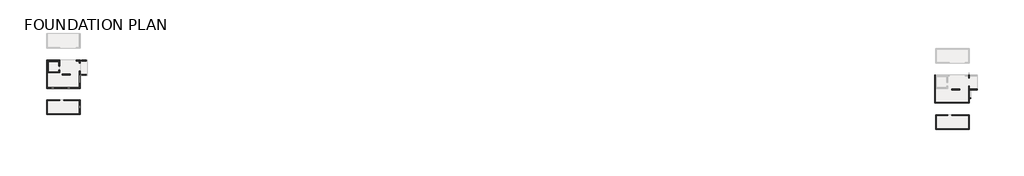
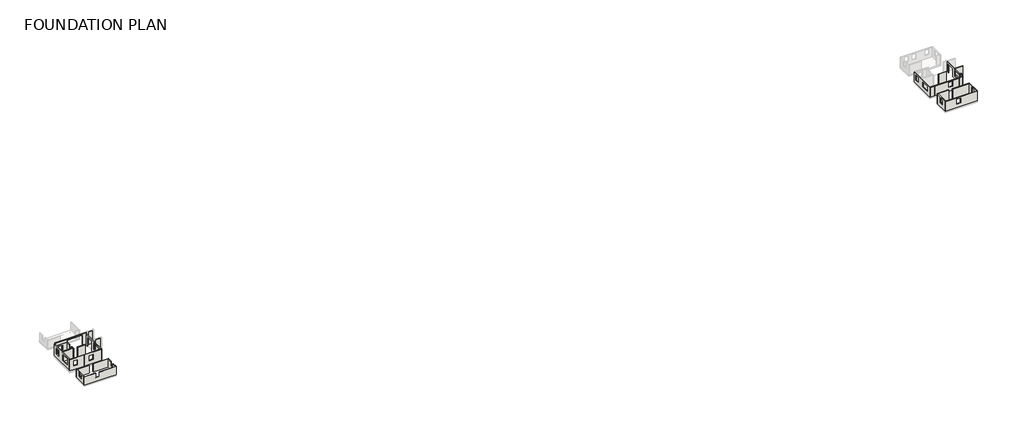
# One storey, part 1 of 2: 32 walls.
"""IFC4 building model written with IfcOpenShell, lengths in millimetres."""

from ifc_helpers import new_model, si_unit, frame, origin, origin_with_axes, place, context, project, spatial, polyline, outline, extrude, faceted_brep, element, save

model = new_model("IFC4")

# Units and contexts
model_context = context("Model", 3, world=origin())
ifc_project = project(units=[si_unit("LENGTHUNIT", "METRE", prefix="MILLI")], contexts=[model_context])

# Site, building, storey
site = spatial("IfcSite", under=ifc_project)
building = spatial("IfcBuilding", under=site)
storey = spatial("IfcBuildingStorey", under=building, Name="FOUNDATION PLAN", Elevation=0.0)

# Walls
placement = place(None, origin())
element("IfcWall", 1, ObjectType="Exterior - 6\" Concrete", at=placement, inside=storey, context=model_context, shape_type="Brep", body=[
    faceted_brep([(209635.3333898, -362.0107258, 0.0), (211387.9333898, -362.0107258, 0.0), (211387.9333898, -362.0107258, 2590.8), (209635.3333898, -362.0107258, 2590.8), (209635.3333898, -362.0107258, 2133.6), (209635.3333898, -362.0107258, 914.4), (209635.3333898, -209.6107258, 0.0), (209635.3333898, -209.6107258, 2590.8), (211387.9333898, -209.6107258, 2590.8), (211387.9333898, -209.6107258, 0.0)], [[[0, 1, 2, 3, 4, 5]], [[6, 7, 8, 9]], [[1, 0, 6, 9]], [[2, 1, 9, 8]], [[3, 2, 8, 7]], [[0, 5, 4, 3, 7, 6]]]),
])
element("IfcWall", 2, ObjectType="Exterior - 6\" Concrete", at=placement, inside=storey, context=model_context, shape_type="SweptSolid", body=[
    extrude(outline(polyline([(209482.9333898, -2597.2107258), (209482.9333898, -2343.2107258), (209635.3333898, -2343.2107258), (209635.3333898, -2597.2107258), (209482.9333898, -2597.2107258)])), origin_with_axes(), (0.0, 0.0, 1.0), 2590.8),
])
element("IfcWall", 3, ObjectType="Exterior - 6\" Concrete", at=placement, inside=storey, context=model_context, shape_type="Brep", body=[
    faceted_brep([(209635.3333898, -2343.2107258, 914.4), (209940.1333898, -2343.2107258, 914.4), (209940.1333898, -2343.2107258, 2438.4), (209635.3333898, -2343.2107258, 2438.4), (209635.3333898, -2190.8107258, 914.4), (209635.3333898, -2190.8107258, 2133.6), (209635.3333898, -2190.8107258, 2438.4), (209940.1333898, -2190.8107258, 2438.4), (209940.1333898, -2190.8107258, 914.4)], [[[0, 1, 2, 3]], [[4, 5, 6, 7, 8]], [[1, 0, 4, 8]], [[2, 1, 8, 7]], [[3, 2, 7, 6]], [[0, 3, 6, 5, 4]]]),
])
element("IfcWall", 4, ObjectType="Generic - 6\" Masonry", at=placement, inside=storey, context=model_context, shape_type="Brep", body=[
    faceted_brep([(7467.6, 9.525, 0.0), (7467.6, 9.525, 2794.0), (7467.6, 152.4, 2794.0), (7467.6, 3052.7625, 2794.0), (7467.6, 3195.6375, 2794.0), (7467.6, 6248.4, 2794.0), (7467.6, 6248.4, 0.0), (7467.6, 5800.8868796, 0.0), (7467.6, 5800.8868796, 2336.91527), (7467.6, 3971.9337441, 2336.91527), (7467.6, 3971.9337441, 0.0), (7467.6, 152.4, 0.0), (7467.6, 3128.9625, 2336.8), (7467.6, 1143.0, 2336.8), (7467.6, 1143.0, 914.4), (7467.6, 3128.9625, 914.4), (7610.475, 9.525, 2794.0), (7610.475, 9.525, 0.0), (7610.475, 3971.9337441, 0.0), (7610.475, 3971.9337441, 2336.91527), (7610.475, 5800.8868796, 2336.91527), (7610.475, 5800.8868796, 0.0), (7610.475, 6248.4, 0.0), (7610.475, 6248.4, 2794.0), (7610.475, 3195.6375, 2794.0), (7610.475, 3052.7625, 2794.0), (7610.475, 1143.0, 2336.8), (7610.475, 3128.9625, 2336.8), (7610.475, 3128.9625, 914.4), (7610.475, 1143.0, 914.4)], [[[0, 1, 2, 3, 4, 5, 6, 7, 8, 9, 10, 11], [12, 13, 14, 15]], [[16, 17, 18, 19, 20, 21, 22, 23, 24, 25], [26, 27, 28, 29]], [[1, 0, 17, 16]], [[8, 20, 19, 9]], [[20, 8, 7, 21]], [[9, 19, 18, 10]], [[12, 27, 26, 13]], [[14, 29, 28, 15]], [[27, 12, 15, 28]], [[13, 26, 29, 14]], [[6, 5, 23, 22]], [[7, 6, 22, 21]], [[0, 11, 10, 18, 17]], [[5, 4, 3, 2, 1, 16, 25, 24, 23]]]),
])
element("IfcWall", 5, ObjectType="Generic - 6\" Masonry", at=placement, inside=storey, context=model_context, shape_type="Brep", body=[
    faceted_brep([(3387.725, 152.4, 0.0), (152.4, 152.4, 0.0), (9.525, 152.4, 0.0), (9.525, 152.4, 2794.0), (152.4, 152.4, 2794.0), (3387.725, 152.4, 2794.0), (1838.325, 152.4, 914.4), (1838.325, 152.4, 2133.6), (923.925, 152.4, 2133.6), (923.925, 152.4, 914.4), (3387.725, 9.525, 0.0), (3387.725, 9.525, 2794.0), (9.525, 9.525, 2794.0), (9.525, 9.525, 0.0), (1838.325, 9.525, 914.4), (923.925, 9.525, 914.4), (923.925, 9.525, 2133.6), (1838.325, 9.525, 2133.6)], [[[0, 1, 2, 3, 4, 5], [6, 7, 8, 9]], [[10, 11, 12, 13], [14, 15, 16, 17]], [[3, 2, 13, 12]], [[2, 1, 0, 10, 13]], [[5, 4, 3, 12, 11]], [[0, 5, 11, 10]], [[7, 6, 14, 17]], [[8, 7, 17, 16]], [[9, 8, 16, 15]], [[6, 9, 15, 14]]]),
])
element("IfcWall", 6, ObjectType="Generic - 6\" Masonry", at=placement, inside=storey, context=model_context, shape_type="Brep", body=[
    faceted_brep([(7610.475, 6248.4, 0.0), (7610.475, 6248.4, 2794.0), (7610.475, 6248.4, 3098.8), (7467.6, 6248.4, 3098.8), (2978.15, 6248.4, 3098.8), (2978.15, 6248.4, 0.0), (3048.0, 6248.4, 0.0), (3048.0, 6248.4, 2844.8), (6705.6, 6248.4, 2844.8), (6705.6, 6248.4, 0.0), (7467.6, 6248.4, 0.0), (7610.475, 6391.275, 3098.8), (7610.475, 6391.275, 0.0), (6705.6, 6391.275, 0.0), (6705.6, 6391.275, 2844.8), (3048.0, 6391.275, 2844.8), (3048.0, 6391.275, 0.0), (2978.15, 6391.275, 0.0), (2978.15, 6391.275, 3098.8), (7467.6, 6391.275, 3098.8)], [[[0, 1, 2, 3, 4, 5, 6, 7, 8, 9, 10]], [[11, 12, 13, 14, 15, 16, 17, 18, 19]], [[5, 17, 16, 6]], [[12, 0, 10, 9, 13]], [[4, 3, 2, 11, 19, 18]], [[5, 4, 18, 17]], [[7, 15, 14, 8]], [[15, 7, 6, 16]], [[8, 14, 13, 9]], [[2, 1, 0, 12, 11]]]),
])
element("IfcWall", 7, ObjectType="Generic - 6\" Masonry", at=placement, inside=storey, context=model_context, shape_type="SweptSolid", body=[
    extrude(outline(polyline([(0.0, 7467.6), (2794.0, 7467.6), (2794.0, 3387.725), (0.0, 3387.725), (0.0, 7467.6)]), holes=[polyline([(914.4, 4635.5), (2133.6, 4635.5), (2133.6, 5549.9), (914.4, 5549.9), (914.4, 4635.5)])]), frame((0.0, 9.525, 0.0), z_axis=(0.0, 1.0, 0.0), x_axis=(0.0, 0.0, 1.0)), (0.0, 0.0, 1.0), 142.875),
])
element("IfcWall", 8, ObjectType="Generic - 6\" Masonry", at=placement, inside=storey, context=model_context, shape_type="SweptSolid", body=[
    extrude(outline(polyline([(5384.8, 3052.7625), (3606.8, 3052.7625), (3606.8, 3195.6375), (5384.8, 3195.6375), (5384.8, 3052.7625)])), origin_with_axes(), (0.0, 0.0, 1.0), 2794.0),
])
element("IfcWall", 9, ObjectType="Generic - 6\" Masonry", at=placement, inside=storey, context=model_context, shape_type="Brep", body=[
    faceted_brep([(3009.9, -2619.4155437, 0.0), (9.525, -2619.4155437, 0.0), (9.525, -2619.4155437, 2032.0), (152.4, -2619.4155437, 2032.0), (3009.9, -2619.4155437, 2032.0), (3009.9, -2762.2905437, 0.0), (3009.9, -2762.2905437, 2032.0), (152.4, -2762.2905437, 2032.0), (9.525, -2762.2905437, 2032.0), (9.525, -2762.2905437, 2031.0750123), (9.525, -2762.2905437, 0.0), (152.4, -2762.2905437, 0.0)], [[[0, 1, 2, 3, 4]], [[5, 6, 7, 8, 9, 10, 11]], [[1, 0, 5, 11, 10]], [[4, 3, 2, 8, 7, 6]], [[0, 4, 6, 5]], [[2, 1, 10, 9, 8]]]),
])
element("IfcWall", 10, ObjectType="Generic - 6\" Masonry", at=placement, inside=storey, context=model_context, shape_type="Brep", body=[
    faceted_brep([(9.525, -5953.1655549, 0.0), (7610.475, -5953.1655549, 0.0), (7610.475, -5953.1655549, 2031.5384896), (3606.8, -5953.1655549, 2031.5384896), (3606.8, -5953.1655549, 914.4), (2692.4, -5953.1655549, 914.4), (2692.4, -5953.1655549, 2031.5384896), (152.4, -5953.1655549, 2031.5384896), (9.525, -5953.1655549, 2031.5384896), (7610.475, -5810.2905549, 0.0), (7467.6, -5810.2905549, 0.0), (152.4, -5810.2905549, 0.0), (9.525, -5810.2905549, 0.0), (9.525, -5810.2905549, 2031.0750123), (9.525, -5810.2905549, 2031.5384896), (152.4, -5810.2905549, 2031.5384896), (2692.4, -5810.2905549, 2031.5384896), (2692.4, -5810.2905549, 914.4), (3606.8, -5810.2905549, 914.4), (3606.8, -5810.2905549, 2031.5384896), (7610.475, -5810.2905549, 2031.5384896)], [[[0, 1, 2, 3, 4, 5, 6, 7, 8]], [[9, 10, 11, 12, 13, 14, 15, 16, 17, 18, 19, 20]], [[1, 0, 12, 11, 10, 9]], [[2, 20, 19, 3]], [[14, 8, 7, 6, 16, 15]], [[2, 1, 9, 20]], [[4, 18, 17, 5]], [[5, 17, 16, 6]], [[18, 4, 3, 19]], [[0, 8, 14, 13, 12]]]),
])
element("IfcWall", 11, ObjectType="Generic - 6\" Masonry", at=placement, inside=storey, context=model_context, shape_type="Brep", body=[
    faceted_brep([(7610.475, -5810.2905549, 0.0), (7610.475, -2619.4155437, 0.0), (7610.475, -2619.4155437, 2032.0), (7610.475, -3838.6155549, 2032.0), (7610.475, -3838.6155549, 914.4), (7610.475, -4753.0155549, 914.4), (7610.475, -4753.0155549, 2032.0), (7610.475, -5810.2905549, 2032.0), (7610.475, -5810.2905549, 2031.5384896), (7467.6, -2619.4155437, 0.0), (7467.6, -2762.2905437, 0.0), (7467.6, -5810.2905549, 0.0), (7467.6, -5810.2905549, 2032.0), (7467.6, -4753.0155549, 2032.0), (7467.6, -4753.0155549, 914.4), (7467.6, -3838.6155549, 914.4), (7467.6, -3838.6155549, 2032.0), (7467.6, -2762.2905437, 2032.0), (7467.6, -2619.4155437, 2032.0)], [[[0, 1, 2, 3, 4, 5, 6, 7, 8]], [[9, 10, 11, 12, 13, 14, 15, 16, 17, 18]], [[1, 0, 11, 10, 9]], [[12, 7, 6, 13]], [[2, 18, 17, 16, 3]], [[0, 8, 7, 12, 11]], [[2, 1, 9, 18]], [[4, 15, 14, 5]], [[5, 14, 13, 6]], [[15, 4, 3, 16]]]),
])
element("IfcWall", 12, ObjectType="Generic - 6\" Masonry", at=placement, inside=storey, context=model_context, shape_type="SweptSolid", body=[
    extrude(outline(polyline([(3924.3, -2619.4155437), (7467.6, -2619.4155437), (7467.6, -2762.2905437), (3924.3, -2762.2905437), (3924.3, -2619.4155437)])), origin_with_axes(), (0.0, 0.0, 1.0), 2032.0),
])
element("IfcWall", 13, ObjectType="Generic - 6\" Masonry", at=placement, inside=storey, context=model_context, shape_type="Brep", body=[
    faceted_brep([(201891.5083898, -3390.9607258, 0.0), (201891.5083898, -3248.0857258, 0.0), (201891.5083898, 2797.1142742, 0.0), (201891.5083898, 2990.7892742, 0.0), (201891.5083898, 2990.7892742, 2438.4), (201891.5083898, -3248.0857258, 2438.4), (201891.5083898, -3390.9607258, 2438.4), (201891.5083898, 1314.3892742, 2133.6), (201891.5083898, 2228.7892742, 2133.6), (201891.5083898, 2228.7892742, 914.4), (201891.5083898, 1314.3892742, 914.4), (201891.5083898, -2374.9607258, 2133.6), (201891.5083898, -546.1607258, 2133.6), (201891.5083898, -546.1607258, 914.4), (201891.5083898, -2374.9607258, 914.4), (201748.6333898, 2990.7892742, 0.0), (201748.6333898, -3390.9607258, 0.0), (201748.6333898, -3390.9607258, 2438.4), (201748.6333898, 2990.7892742, 2438.4), (201748.6333898, 2228.7892742, 2133.6), (201748.6333898, 1314.3892742, 2133.6), (201748.6333898, 1314.3892742, 914.4), (201748.6333898, 2228.7892742, 914.4), (201748.6333898, -546.1607258, 2133.6), (201748.6333898, -2374.9607258, 2133.6), (201748.6333898, -2374.9607258, 914.4), (201748.6333898, -546.1607258, 914.4)], [[[0, 1, 2, 3, 4, 5, 6], [7, 8, 9, 10], [11, 12, 13, 14]], [[15, 16, 17, 18], [19, 20, 21, 22], [23, 24, 25, 26]], [[3, 2, 1, 0, 16, 15]], [[6, 5, 4, 18, 17]], [[7, 20, 19, 8]], [[9, 22, 21, 10]], [[20, 7, 10, 21]], [[8, 19, 22, 9]], [[0, 6, 17, 16]], [[4, 3, 15, 18]], [[11, 24, 23, 12]], [[13, 26, 25, 14]], [[24, 11, 14, 25]], [[12, 23, 26, 13]]]),
])
element("IfcWall", 14, ObjectType="Generic - 6\" Masonry", at=placement, inside=storey, context=model_context, shape_type="Brep", body=[
    faceted_brep([(209492.4583898, -3390.9607258, 0.0), (209492.4583898, -3390.9607258, 2438.4), (209492.4583898, -3248.0857258, 2438.4), (209492.4583898, 2847.9142742, 2438.4), (209492.4583898, 2990.7892742, 2438.4), (209492.4583898, 2990.7892742, 0.0), (209492.4583898, 2847.9142742, 0.0), (209492.4583898, 2304.9892742, 0.0), (209492.4583898, 2304.9892742, 2133.6), (209492.4583898, 476.1892742, 2133.6), (209492.4583898, 476.1892742, 0.0), (209492.4583898, -3248.0857258, 0.0), (209492.4583898, -362.0107258, 2133.6), (209492.4583898, -2190.8107258, 2133.6), (209492.4583898, -2190.8107258, 914.4), (209492.4583898, -362.0107258, 914.4), (209635.3333898, 2990.7892742, 2438.4), (209635.3333898, 2838.3892742, 2438.4), (209635.3333898, -2190.8107258, 2438.4), (209635.3333898, -2343.2107258, 2438.4), (209635.3333898, -3390.9607258, 2438.4), (209635.3333898, -3390.9607258, 0.0), (209635.3333898, -362.0107258, 0.0), (209635.3333898, -209.6107258, 0.0), (209635.3333898, 476.1892742, 0.0), (209635.3333898, 476.1892742, 2133.6), (209635.3333898, 2304.9892742, 2133.6), (209635.3333898, 2304.9892742, 0.0), (209635.3333898, 2838.3892742, 0.0), (209635.3333898, 2990.7892742, 0.0), (209635.3333898, -2190.8107258, 2133.6), (209635.3333898, -362.0107258, 2133.6), (209635.3333898, -362.0107258, 914.4), (209635.3333898, -2190.8107258, 914.4), (209563.8958898, 2990.7892742, 2438.4)], [[[0, 1, 2, 3, 4, 5, 6, 7, 8, 9, 10, 11], [12, 13, 14, 15]], [[16, 17, 18, 19, 20, 21, 22, 23, 24, 25, 26, 27, 28, 29], [30, 31, 32, 33]], [[21, 0, 11, 10, 24, 23, 22]], [[29, 28, 27, 7, 6, 5]], [[20, 19, 18, 17, 16, 34, 4, 3, 2, 1]], [[1, 0, 21, 20]], [[8, 26, 25, 9]], [[26, 8, 7, 27]], [[9, 25, 24, 10]], [[5, 4, 34, 16, 29]], [[13, 12, 31, 30]], [[15, 14, 33, 32]], [[15, 32, 31, 12]], [[13, 30, 33, 14]]]),
])
element("IfcWall", 15, ObjectType="Generic - 6\" Masonry", at=placement, inside=storey, context=model_context, shape_type="SweptSolid", body=[
    extrude(outline(polyline([(201891.5083898, -3248.0857258), (202928.4633246, -3248.0857258), (202928.4633246, -3390.9607258), (201891.5083898, -3390.9607258), (201891.5083898, -3248.0857258)])), origin_with_axes(), (0.0, 0.0, 1.0), 2438.4),
])
element("IfcWall", 16, ObjectType="Generic - 6\" Masonry", at=placement, inside=storey, context=model_context, shape_type="SweptSolid", body=[
    extrude(outline(polyline([(208720.9333898, -3248.0857258), (209492.4583898, -3248.0857258), (209492.4583898, -3390.9607258), (208720.9333898, -3390.9607258), (208720.9333898, -3248.0857258)])), origin_with_axes(), (0.0, 0.0, 1.0), 2438.4),
])
element("IfcWall", 17, ObjectType="Generic - 6\" Masonry", at=placement, inside=storey, context=model_context, shape_type="SweptSolid", body=[
    extrude(outline(polyline([(207400.1333898, -352.4857258), (205622.1333898, -352.4857258), (205622.1333898, -209.6107258), (207400.1333898, -209.6107258), (207400.1333898, -352.4857258)])), origin_with_axes(), (0.0, 0.0, 1.0), 2590.8),
])
element("IfcWall", 18, ObjectType="Generic - 6\" Masonry", at=placement, inside=storey, context=model_context, shape_type="Brep", body=[
    faceted_brep([(204707.7333898, -6019.9012695, 0.0), (202015.3333898, -6019.9012695, 0.0), (202015.3333898, -6019.9012695, 2438.4), (204707.7333898, -6019.9012695, 2438.4), (204707.7333898, -6162.7762695, 0.0), (204707.7333898, -6162.7762695, 2438.4), (202158.2083898, -6162.7762695, 2438.4), (202015.3333898, -6162.7762695, 2438.4), (202015.3333898, -6162.7762695, 0.0), (202158.2083898, -6162.7762695, 0.0)], [[[0, 1, 2, 3]], [[4, 5, 6, 7, 8, 9]], [[1, 0, 4, 9, 8]], [[3, 2, 7, 6, 5]], [[0, 3, 5, 4]], [[2, 1, 8, 7]]]),
])
element("IfcWall", 19, ObjectType="Generic - 6\" Masonry", at=placement, inside=storey, context=model_context, shape_type="Brep", body=[
    faceted_brep([(202015.3333898, -6162.7762695, 0.0), (202015.3333898, -9372.7012695, 0.0), (202015.3333898, -9372.7012695, 2438.4), (202015.3333898, -6162.7762695, 2438.4), (202015.3333898, -7239.1012695, 2133.6), (202015.3333898, -8153.5012695, 2133.6), (202015.3333898, -8153.5012695, 914.4), (202015.3333898, -7239.1012695, 914.4), (202158.2083898, -9372.7012695, 0.0), (202158.2083898, -9229.8262695, 0.0), (202158.2083898, -6162.7762695, 0.0), (202158.2083898, -6162.7762695, 2438.4), (202158.2083898, -9229.8262695, 2438.4), (202158.2083898, -9372.7012695, 2438.4), (202158.2083898, -8153.5012695, 2133.6), (202158.2083898, -7239.1012695, 2133.6), (202158.2083898, -7239.1012695, 914.4), (202158.2083898, -8153.5012695, 914.4)], [[[0, 1, 2, 3], [4, 5, 6, 7]], [[8, 9, 10, 11, 12, 13], [14, 15, 16, 17]], [[1, 0, 10, 9, 8]], [[3, 2, 13, 12, 11]], [[0, 3, 11, 10]], [[2, 1, 8, 13]], [[4, 15, 14, 5]], [[6, 17, 16, 7]], [[15, 4, 7, 16]], [[5, 14, 17, 6]]]),
])
element("IfcWall", 20, ObjectType="Generic - 6\" Masonry", at=placement, inside=storey, context=model_context, shape_type="Brep", body=[
    faceted_brep([(202158.2083898, -9372.7012695, 0.0), (209635.3333898, -9372.7012695, 0.0), (209635.3333898, -9372.7012695, 2438.4), (202158.2083898, -9372.7012695, 2438.4), (204707.7333898, -9372.7012695, 2133.6), (205622.1333898, -9372.7012695, 2133.6), (205622.1333898, -9372.7012695, 914.4), (204707.7333898, -9372.7012695, 914.4), (209635.3333898, -9229.8262695, 0.0), (209492.4583898, -9229.8262695, 0.0), (202158.2083898, -9229.8262695, 0.0), (202158.2083898, -9229.8262695, 2438.4), (209492.4583898, -9229.8262695, 2438.4), (209635.3333898, -9229.8262695, 2438.4), (205622.1333898, -9229.8262695, 2133.6), (204707.7333898, -9229.8262695, 2133.6), (204707.7333898, -9229.8262695, 914.4), (205622.1333898, -9229.8262695, 914.4)], [[[0, 1, 2, 3], [4, 5, 6, 7]], [[8, 9, 10, 11, 12, 13], [14, 15, 16, 17]], [[1, 0, 10, 9, 8]], [[3, 2, 13, 12, 11]], [[0, 3, 11, 10]], [[2, 1, 8, 13]], [[4, 15, 14, 5]], [[6, 17, 16, 7]], [[15, 4, 7, 16]], [[5, 14, 17, 6]]]),
])
element("IfcWall", 21, ObjectType="Generic - 6\" Masonry", at=placement, inside=storey, context=model_context, shape_type="Brep", body=[
    faceted_brep([(209635.3333898, -9229.8262695, 0.0), (209635.3333898, -6019.9012695, 0.0), (209635.3333898, -6019.9012695, 2438.4), (209635.3333898, -9229.8262695, 2438.4), (209635.3333898, -8153.5012695, 2133.6), (209635.3333898, -7239.1012695, 2133.6), (209635.3333898, -7239.1012695, 914.4), (209635.3333898, -8153.5012695, 914.4), (209492.4583898, -6019.9012695, 0.0), (209492.4583898, -6162.7762695, 0.0), (209492.4583898, -9229.8262695, 0.0), (209492.4583898, -9229.8262695, 2438.4), (209492.4583898, -6162.7762695, 2438.4), (209492.4583898, -6019.9012695, 2438.4), (209492.4583898, -7239.1012695, 2133.6), (209492.4583898, -8153.5012695, 2133.6), (209492.4583898, -8153.5012695, 914.4), (209492.4583898, -7239.1012695, 914.4)], [[[0, 1, 2, 3], [4, 5, 6, 7]], [[8, 9, 10, 11, 12, 13], [14, 15, 16, 17]], [[1, 0, 10, 9, 8]], [[3, 2, 13, 12, 11]], [[0, 3, 11, 10]], [[2, 1, 8, 13]], [[4, 15, 14, 5]], [[6, 17, 16, 7]], [[15, 4, 7, 16]], [[5, 14, 17, 6]]]),
])
element("IfcWall", 22, ObjectType="Generic - 6\" Masonry", at=placement, inside=storey, context=model_context, shape_type="SweptSolid", body=[
    extrude(outline(polyline([(205622.1333898, -6019.9012695), (209492.4583898, -6019.9012695), (209492.4583898, -6162.7762695), (205622.1333898, -6162.7762695), (205622.1333898, -6019.9012695)])), origin_with_axes(), (0.0, 0.0, 1.0), 2438.4),
])
element("IfcWall", 23, ObjectType="Generic - 6\" Masonry", at=placement, inside=storey, context=model_context, shape_type="Brep", body=[
    faceted_brep([(152.4, 152.4, 0.0), (152.4, 6248.3999888, 0.0), (152.4, 6391.2749888, 0.0), (152.4, 6391.2749888, 2794.0), (152.4, 152.4, 2794.0), (152.4, 4562.4749888, 2336.7879629), (152.4, 5476.8749888, 2336.7879629), (152.4, 5476.8749888, 914.4), (152.4, 4562.4749888, 914.4), (152.4, 1016.0000536, 2336.7380994), (152.4, 2844.8000536, 2336.7380994), (152.4, 2844.8000536, 914.4), (152.4, 1016.0000536, 914.4), (9.525, 6391.2749888, 0.0), (9.525, 152.4, 0.0), (9.525, 152.4, 2794.0), (9.525, 3052.7625, 2794.0), (9.525, 3195.6375, 2794.0), (9.525, 6391.2749888, 2794.0), (9.525, 5476.8749888, 2336.7879629), (9.525, 4562.4749888, 2336.7879629), (9.525, 4562.4749888, 914.4), (9.525, 5476.8749888, 914.4), (9.525, 2844.8000536, 2336.7380994), (9.525, 1016.0000536, 2336.7380994), (9.525, 1016.0000536, 914.4), (9.525, 2844.8000536, 914.4)], [[[0, 1, 2, 3, 4], [5, 6, 7, 8], [9, 10, 11, 12]], [[13, 14, 15, 16, 17, 18], [19, 20, 21, 22], [23, 24, 25, 26]], [[2, 1, 0, 14, 13]], [[4, 3, 18, 17, 16, 15]], [[5, 20, 19, 6]], [[7, 22, 21, 8]], [[20, 5, 8, 21]], [[6, 19, 22, 7]], [[9, 24, 23, 10]], [[11, 26, 25, 12]], [[24, 9, 12, 25]], [[10, 23, 26, 11]], [[0, 4, 15, 14]], [[3, 2, 13, 18]]]),
])
element("IfcWall", 24, ObjectType="Generic - 6\" Masonry", at=placement, inside=storey, context=model_context, shape_type="SweptSolid", body=[
    extrude(outline(polyline([(-2762.2905437, 0.0), (-5810.2905549, 0.0), (-5810.2905549, 2031.0750123), (-2762.2905437, 2031.0750123), (-2762.2905437, 0.0)]), holes=[polyline([(-3838.6155549, 2029.6460456), (-4753.0155549, 2029.6460456), (-4753.0155549, 914.4), (-3838.6155549, 914.4), (-3838.6155549, 2029.6460456)])]), frame((9.525, 0.0, 0.0), z_axis=(1.0, 0.0, 0.0), x_axis=(0.0, 1.0, 0.0)), (0.0, 0.0, 1.0), 142.875),
])
element("IfcWall", 25, ObjectType="Generic - 6\" Masonry", at=placement, inside=storey, context=model_context, shape_type="Brep", body=[
    faceted_brep([(2978.15, 6391.2749888, 0.0), (152.4, 6391.2749888, 0.0), (152.4, 6391.2749888, 2794.0), (152.4, 6391.2749888, 3098.8), (2978.15, 6391.2749888, 3098.8), (2978.15, 6391.2749888, 2794.0), (2978.15, 6391.2749888, 2438.4), (1838.325, 6391.2749888, 914.4), (1838.325, 6391.2749888, 2133.6), (923.925, 6391.2749888, 2133.6), (923.925, 6391.2749888, 914.4), (2978.15, 6248.3999888, 0.0), (2978.15, 6248.3999888, 2438.4), (2978.15, 6248.3999888, 2794.0), (2978.15, 6248.3999888, 3098.8), (152.4, 6248.3999888, 3098.8), (152.4, 6248.3999888, 0.0), (1838.325, 6248.3999888, 914.4), (923.925, 6248.3999888, 914.4), (923.925, 6248.3999888, 2133.6), (1838.325, 6248.3999888, 2133.6)], [[[0, 1, 2, 3, 4, 5, 6], [7, 8, 9, 10]], [[11, 12, 13, 14, 15, 16], [17, 18, 19, 20]], [[3, 2, 1, 16, 15]], [[1, 0, 11, 16]], [[4, 3, 15, 14]], [[0, 6, 5, 4, 14, 13, 12, 11]], [[8, 7, 17, 20]], [[9, 8, 20, 19]], [[10, 9, 19, 18]], [[7, 10, 18, 17]]]),
])
element("IfcWall", 26, ObjectType="Generic - 6\" Masonry Safe Room", at=placement, inside=storey, context=model_context, shape_type="Brep", body=[
    faceted_brep([(2835.275, 3606.8, 0.0), (2835.275, 3606.8, 2438.4), (2835.275, 3749.675, 2438.4), (2835.275, 4206.875, 2438.4), (2835.275, 4206.875, 0.0), (2835.275, 3749.675, 0.0), (2978.15, 3606.8, 2438.4), (2978.15, 3606.8, 0.0), (2978.15, 4206.875, 0.0), (2978.15, 4206.875, 2438.4)], [[[0, 1, 2, 3, 4, 5]], [[6, 7, 8, 9]], [[7, 0, 5, 4, 8]], [[1, 0, 7, 6]], [[4, 3, 9, 8]], [[1, 6, 9, 3, 2]]]),
    faceted_brep([(2835.275, 6178.5499888, 2438.4), (2835.275, 6178.5499888, 0.0), (2835.275, 6035.6749888, 0.0), (2835.275, 5121.275, 0.0), (2835.275, 5121.275, 2438.4), (2835.275, 6035.6749888, 2438.4), (2978.15, 6178.5499888, 0.0), (2978.15, 6178.5499888, 2438.4), (2978.15, 5121.275, 2438.4), (2978.15, 5121.275, 0.0)], [[[0, 1, 2, 3, 4, 5]], [[6, 7, 8, 9]], [[1, 6, 9, 3, 2]], [[1, 0, 7, 6]], [[4, 3, 9, 8]], [[7, 0, 5, 4, 8]]]),
])
element("IfcWall", 27, ObjectType="Generic - 6\" Masonry Safe Room", at=placement, inside=storey, context=model_context, shape_type="Brep", body=[
    faceted_brep([(2835.275, 3749.675, 0.0), (346.075, 3749.675, 0.0), (203.2, 3749.675, 0.0), (203.2, 3749.675, 2438.4), (346.075, 3749.675, 2438.4), (2835.275, 3749.675, 2438.4), (2835.275, 3606.8, 0.0), (2835.275, 3606.8, 2438.4), (203.2, 3606.8, 2438.4), (203.2, 3606.8, 0.0)], [[[0, 1, 2, 3, 4, 5]], [[6, 7, 8, 9]], [[2, 1, 0, 6, 9]], [[0, 5, 7, 6]], [[3, 2, 9, 8]], [[5, 4, 3, 8, 7]]]),
])
element("IfcWall", 28, ObjectType="Generic - 6\" Masonry Safe Room", at=placement, inside=storey, context=model_context, shape_type="Brep", body=[
    faceted_brep([(346.075, 3749.675, 0.0), (346.075, 6035.6749888, 0.0), (346.075, 6178.5499888, 0.0), (346.075, 6178.5499888, 2438.4), (346.075, 6035.6749888, 2438.4), (346.075, 3749.675, 2438.4), (346.075, 4552.9499888, 2135.6092442), (346.075, 5467.3499888, 2135.6092442), (346.075, 5467.3499888, 2133.6), (346.075, 5467.3499888, 914.4), (346.075, 4552.9499888, 914.4), (346.075, 4552.9499888, 2133.6), (203.2, 6178.5499888, 0.0), (203.2, 3749.675, 0.0), (203.2, 3749.675, 2438.4), (203.2, 6178.5499888, 2438.4), (203.2, 5467.3499888, 2135.6092442), (203.2, 4552.9499888, 2135.6092442), (203.2, 4552.9499888, 2133.6), (203.2, 4552.9499888, 914.4), (203.2, 5467.3499888, 914.4), (203.2, 5467.3499888, 2133.6)], [[[0, 1, 2, 3, 4, 5], [6, 7, 8, 9, 10, 11]], [[12, 13, 14, 15], [16, 17, 18, 19, 20, 21]], [[2, 1, 0, 13, 12]], [[0, 5, 14, 13]], [[3, 2, 12, 15]], [[6, 17, 16, 7]], [[9, 20, 19, 10]], [[17, 6, 11, 10, 19, 18]], [[7, 16, 21, 20, 9, 8]], [[5, 4, 3, 15, 14]]]),
])
element("IfcWall", 29, ObjectType="Generic - 6\" Masonry Safe Room", at=placement, inside=storey, context=model_context, shape_type="SweptSolid", body=[
    extrude(outline(polyline([(0.0, 346.075), (0.0, 2835.275), (2438.4, 2835.275), (2438.4, 346.075), (0.0, 346.075)]), holes=[polyline([(914.4, 923.925), (2133.6, 923.925), (2133.6, 1838.325), (914.4, 1838.325), (914.4, 923.925)])]), frame((0.0, 6035.6749888, 0.0), z_axis=(0.0, 1.0, 0.0), x_axis=(0.0, 0.0, 1.0)), (0.0, 0.0, 1.0), 142.875),
])
element("IfcWall", 30, ObjectType="Generic - 8\" Masonry Break Out", at=placement, inside=storey, context=model_context, shape_type="Brep", body=[
    faceted_brep([(202928.4633246, -3390.9607258, 0.0), (208720.9333898, -3390.9607258, 0.0), (208720.9333898, -3390.9607258, 2438.4), (202928.4633246, -3390.9607258, 2438.4), (206282.5333898, -3390.9607258, 2133.6), (207196.9333898, -3390.9607258, 2133.6), (207196.9333898, -3390.9607258, 914.4), (206282.5333898, -3390.9607258, 914.4), (208720.9333898, -3197.2857258, 0.0), (202928.4633246, -3197.2857258, 0.0), (202928.4633246, -3197.2857258, 2438.4), (208720.9333898, -3197.2857258, 2438.4), (207196.9333898, -3197.2857258, 2133.6), (206282.5333898, -3197.2857258, 2133.6), (206282.5333898, -3197.2857258, 914.4), (207196.9333898, -3197.2857258, 914.4), (202928.4633246, -3248.0857258, 0.0), (208720.9333898, -3248.0857258, 0.0), (208720.9333898, -3248.0857258, 2438.4), (202928.4633246, -3248.0857258, 2438.4)], [[[0, 1, 2, 3], [4, 5, 6, 7]], [[8, 9, 10, 11], [12, 13, 14, 15]], [[1, 0, 16, 9, 8, 17]], [[2, 1, 17, 8, 11, 18]], [[3, 2, 18, 11, 10, 19]], [[0, 3, 19, 10, 9, 16]], [[4, 13, 12, 5]], [[6, 15, 14, 7]], [[13, 4, 7, 14]], [[5, 12, 15, 6]]]),
])
element("IfcWall", 31, ObjectType="Generic - Open Lattice", at=placement, inside=storey, context=model_context, shape_type="Brep", body=[
    faceted_brep([(7966.075, 6248.4, 0.0), (8982.075, 6248.4, 0.0), (8982.075, 6248.4, 3149.6), (7966.075, 6248.4, 3149.6), (7966.075, 6391.275, 0.0), (7966.075, 6391.275, 3149.6), (8982.075, 6391.275, 3149.6), (8982.075, 6391.275, 0.0), (8982.075, 6365.875, 3149.6), (7966.075, 6365.875, 3149.6)], [[[0, 1, 2, 3]], [[4, 5, 6, 7]], [[1, 0, 4, 7]], [[2, 1, 7, 6, 8]], [[3, 2, 8, 6, 5, 9]], [[0, 3, 9, 5, 4]]]),
])
element("IfcWall", 32, ObjectType="Generic - Open Lattice", at=placement, inside=storey, context=model_context, shape_type="Brep", body=[
    faceted_brep([(7966.075, 3038.475, 0.0), (8982.075, 3038.475, 0.0), (8982.075, 3038.475, 3149.6), (7966.075, 3038.475, 3149.6), (7966.075, 3181.35, 0.0), (7966.075, 3181.35, 3149.6), (8982.075, 3181.35, 3149.6), (8982.075, 3181.35, 0.0), (8982.075, 3063.875, 3149.6), (7966.075, 3063.875, 3149.6)], [[[0, 1, 2, 3]], [[4, 5, 6, 7]], [[1, 0, 4, 7]], [[2, 1, 7, 6, 8]], [[3, 2, 8, 6, 5, 9]], [[0, 3, 9, 5, 4]]]),
])

save(model, "model.ifc")
